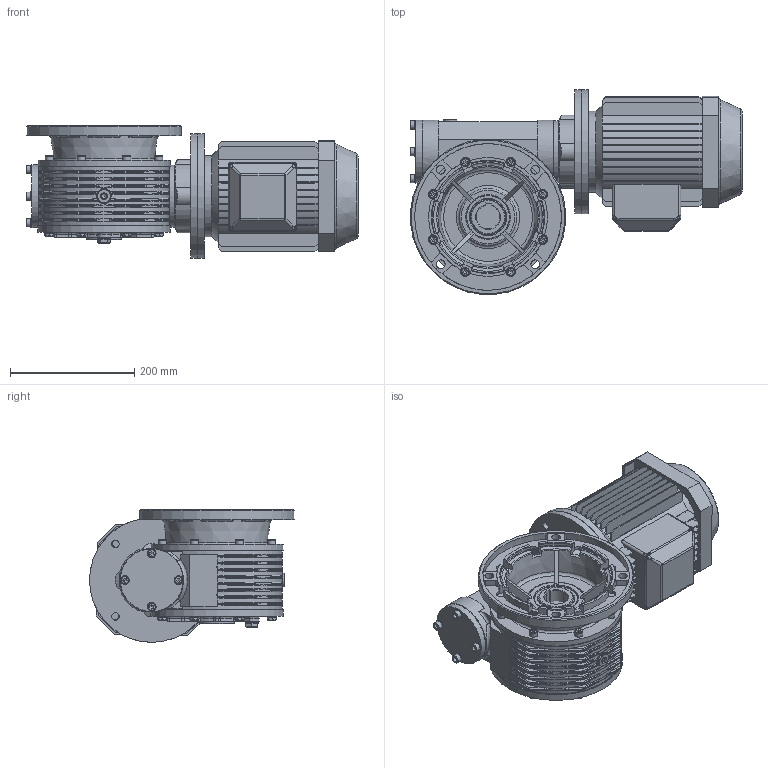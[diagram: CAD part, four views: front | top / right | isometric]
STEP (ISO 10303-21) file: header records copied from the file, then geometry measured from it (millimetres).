
FILE_DESCRIPTION((''),'2;1');
FILE_NAME('Y:\Archivi Inventor\Prog_01\GRAND_50\complessivi\Figurini\MRV50 sito\90l\mrv50_F2_90L_B5.stp','2013-02-06T15:32:28',('tech3'),(''),'Autodesk Inventor 2013','Autodesk Inventor 2013','');
FILE_SCHEMA(('AUTOMOTIVE_DESIGN { 1 0 10303 214 1 1 1 1 }'));
Length unit declared in the file: millimetre
Products named in the file (20): mrv50_80_90l_90s_b5; mrv50_fig; Figurino_carcassa_MRV50; 0105028; 0105029; figurino_corona_MRV50; Guarnizione 3_8 GAS; Tappo 3_8 GAS_esagn_incsst; figurino_0105009; ISO 4017 M8 x 20; 55_70_8; fig_0105002; figurino_0105003; Tappo3_8 GAS; ISO 4762 M8 x 16; UNI 6592 8.4 x 14; UNI 5931  M 8 x  25; 0105006; ISO 4762 M8 x 20; motori B5 90L
Assembly tree (48 placements, depth 3):
  mrv50_80_90l_90s_b5
    mrv50_fig
      Figurino_carcassa_MRV50
      0105028  x2
      0105029  x2
      figurino_corona_MRV50
      Guarnizione 3_8 GAS  x3
      Tappo 3_8 GAS_esagn_incsst  x2
      figurino_0105009
      ISO 4017 M8 x 20  x8
      55_70_8  x2
      fig_0105002
      figurino_0105003
      Tappo3_8 GAS
      ISO 4762 M8 x 16  x8
      UNI 6592 8.4 x 14  x4
      UNI 5931  M 8 x  25  x4
    0105006
    ISO 4762 M8 x 20  x4
    motori B5 90L
Bounding box: 533.8 x 329.52 x 213.35 mm (x, y, z)
Volume: 11344219.5 mm3; surface area: 1328581.5 mm2
Topology: 59 solids, 65 shells, 2200 faces, 5392 edges, 3222 vertices
Faces by surface type: plane 904, cylinder 668, torus 217, cone 189, bspline 156, sphere 66
Full cylindrical faces by diameter (mm): 2 x2, 6.647 x24, 8 x26, 8.4 x4, 8.5 x48, 11.63 x8, 12 x8, 13 x20, 13.046 x1, 14 x8, 14.95 x3, 16.3 x3, 16.5 x2, 22 x6, 24 x3, 55 x1, 60 x1, 66.4 x2, 69 x2, 70 x5, 72 x4, 73 x2, 75 x1, 80 x1, 90 x1, 99.5 x2, 100 x1, 101 x1, 102 x2, 114.4 x1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
Entity records: 61629 total; most frequent: CARTESIAN_POINT 20044, DIRECTION 8604, ORIENTED_EDGE 8048, EDGE_CURVE 4024, AXIS2_PLACEMENT_3D 3417, VERTEX_POINT 2601, EDGE_LOOP 2185, VECTOR 1770
